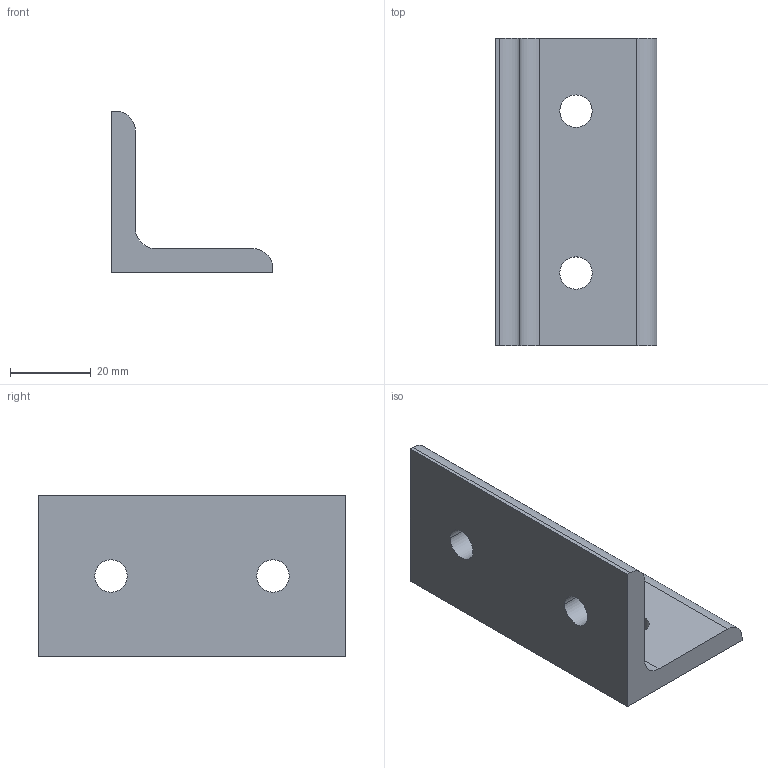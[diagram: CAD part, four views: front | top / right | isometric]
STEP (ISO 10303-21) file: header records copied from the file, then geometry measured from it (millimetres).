
FILE_DESCRIPTION (( 'STEP AP203' ), '1' );
FILE_NAME ('6013.STEP', '2016-03-27T14:37:16', ( '' ), ( '' ), 'SwSTEP 2.0', 'SolidWorks 2014', '' );
FILE_SCHEMA (( 'CONFIG_CONTROL_DESIGN' ));
Length unit declared in the file: millimetre
Products named in the file (1): 6013
Bounding box: 40 x 76 x 40 mm (x, y, z)
Volume: 32133.7 mm3; surface area: 12749.2 mm2
Topology: 1 solids, 1 shells, 19 faces, 51 edges, 34 vertices
Faces by surface type: cylinder 11, plane 8
Entity records: 700 total; most frequent: DIRECTION 113, CARTESIAN_POINT 105, ORIENTED_EDGE 102, EDGE_CURVE 51, AXIS2_PLACEMENT_3D 42, VERTEX_POINT 34, LINE 29, VECTOR 29
